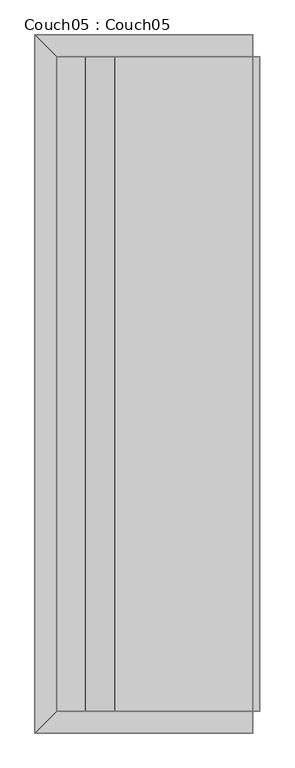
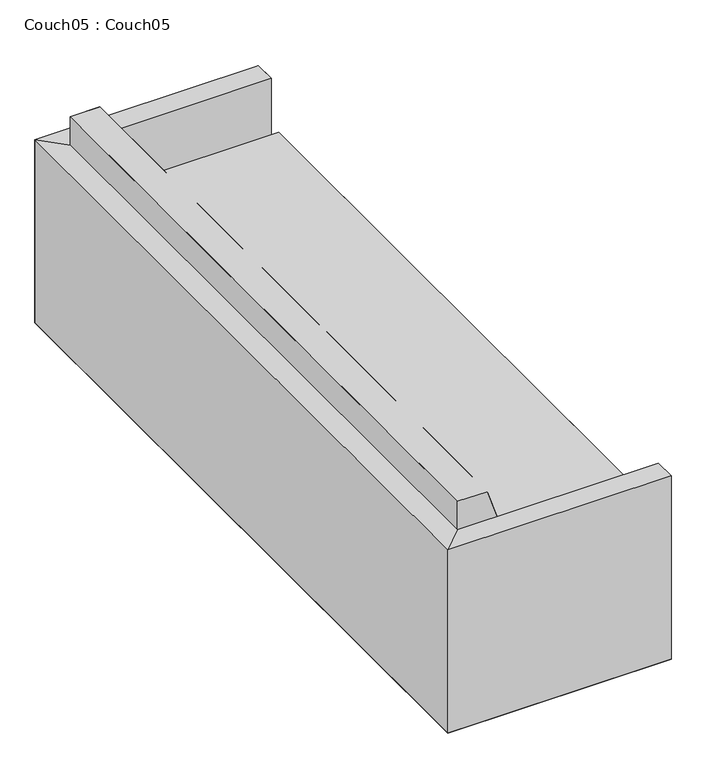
"""IFC4 building model written with IfcOpenShell, lengths in millimetres: furniture geometry, Couch05 : Couch05."""

import ifcopenshell
import ifcopenshell.guid

model = None  # the IFC model being written
_history = None  # IfcOwnerHistory: only IFC2X3 demands one
_inside = {}  # id of a spatial element -> (the spatial element, [elements in it])
_under = {}  # id of a project, library or spatial element -> (it, [spatial elements below it])
_declared = {}  # id of a project -> (the project, [libraries it declares])
_typed = {}  # id of a type object -> (the type object, [elements of that type])
_made_of = {}  # id of a material, layer set ... -> (it, [elements and type objects made of it])


def new_model(schema):
    """Start an empty IFC model of exactly this schema.

    Asked for "IFC4X3", IfcOpenShell would pick the latest addendum, in which some entities
    have other attributes; the version numbers below select the first issue.
    IFC2X3 requires an IfcOwnerHistory on every rooted entity: one is made here for all.
    """
    global model, _history
    if schema == "IFC4X3":
        model = ifcopenshell.file(schema_version=(4, 3, 0, 0))
    else:
        model = ifcopenshell.file(schema=schema)
    _inside.clear()
    _under.clear()
    _declared.clear()
    _typed.clear()
    _made_of.clear()
    _history = None
    if model.schema == "IFC2X3":
        org = make("IfcOrganization", Name="unknown")
        user = make(
            "IfcPersonAndOrganization",
            ThePerson=make("IfcPerson", FamilyName="unknown"),
            TheOrganization=org,
        )
        app = make(
            "IfcApplication",
            ApplicationDeveloper=org,
            Version="unknown",
            ApplicationFullName="unknown",
            ApplicationIdentifier="unknown",
        )
        _history = make(
            "IfcOwnerHistory",
            OwningUser=user,
            OwningApplication=app,
            ChangeAction="ADDED",
            CreationDate=0,
        )
    return model


def make(cls, **values):
    """One entity of the class cls with the attributes given. An attribute that is None is left unset."""
    return model.create_entity(
        cls, **{name: value for name, value in values.items() if value is not None}
    )


def rooted(cls, **values):
    """An entity with a GlobalId (a new one), such as an element, a storey or a relation."""
    return make(cls, GlobalId=ifcopenshell.guid.new(), OwnerHistory=_history, **values)


def si_unit(unit_type, name, prefix=None):
    """IfcSIUnit, for example si_unit("LENGTHUNIT", "METRE", prefix="MILLI")."""
    return make("IfcSIUnit", UnitType=unit_type, Prefix=prefix, Name=name)


def assignment(units):
    """IfcUnitAssignment: the units of a project."""
    return None if units is None else make("IfcUnitAssignment", Units=units)


def point(xyz):
    """IfcCartesianPoint."""
    return None if xyz is None else make("IfcCartesianPoint", Coordinates=xyz)


def direction(xyz):
    """IfcDirection."""
    return None if xyz is None else make("IfcDirection", DirectionRatios=xyz)


def frame(location, z_axis=None, x_axis=None):
    """IfcAxis2Placement3D, a coordinate frame: its origin and axes. An axis left out is left unset."""
    return make(
        "IfcAxis2Placement3D",
        Location=point(location),
        Axis=direction(z_axis),
        RefDirection=direction(x_axis),
    )


def origin():
    """The frame at (0, 0, 0) with its axes left unset."""
    return frame((0.0, 0.0, 0.0))


def place(relative_to, where):
    """IfcLocalPlacement: puts the frame where relative to a parent placement (None: the world)."""
    return make(
        "IfcLocalPlacement", PlacementRelTo=relative_to, RelativePlacement=where
    )


def context(
    kind, dimensions, precision=None, world=None, true_north=None, identifier=None
):
    """IfcGeometricRepresentationContext, for example the 3D "Model" context."""
    return make(
        "IfcGeometricRepresentationContext",
        ContextIdentifier=identifier,
        ContextType=kind,
        CoordinateSpaceDimension=dimensions,
        Precision=precision,
        WorldCoordinateSystem=world,
        TrueNorth=true_north,
    )


def project(units=None, contexts=None):
    """IfcProject with its units and contexts."""
    return rooted(
        "IfcProject",
        Name="project",
        RepresentationContexts=contexts,
        UnitsInContext=assignment(units),
    )


def spatial(cls, under=None, at=None, **own):
    """A site, building, storey or space (cls), placed at a placement, below another one or the project."""
    s = rooted(cls, ObjectPlacement=at, **own)
    if under is not None:
        _under.setdefault(under.id(), (under, []))[1].append(s)
    return s


def point_list(points):
    """IfcCartesianPointList2D or 3D."""
    cls = (
        "IfcCartesianPointList2D" if len(points[0]) == 2 else "IfcCartesianPointList3D"
    )
    return make(cls, CoordList=points)


def triangles(points, corners, closed=None, point_numbers=None):
    """IfcTriangulatedFaceSet: each triangle names its three corners, points numbered from 1."""
    return make(
        "IfcTriangulatedFaceSet",
        Coordinates=point_list(points),
        Closed=closed,
        CoordIndex=corners,
        PnIndex=point_numbers,
    )


def shape(context_of_items, identifier, shape_type, items):
    """IfcShapeRepresentation: the items that make up one representation, for example the "Body"."""
    return make(
        "IfcShapeRepresentation",
        ContextOfItems=context_of_items,
        RepresentationIdentifier=identifier,
        RepresentationType=shape_type,
        Items=items,
    )


def source(mapping_origin, context_of_items, identifier, shape_type, items):
    """IfcRepresentationMap: a shape defined once, which mapped items show again and again."""
    return make(
        "IfcRepresentationMap",
        MappingOrigin=mapping_origin,
        MappedRepresentation=shape(context_of_items, identifier, shape_type, items),
    )


def transform(
    local_origin,
    x_axis=None,
    y_axis=None,
    z_axis=None,
    scale=None,
    scale2=None,
    scale3=None,
    uniform=True,
):
    """IfcCartesianTransformationOperator3D, or its non-uniform kind. x_axis, y_axis, z_axis: its Axis1, 2, 3."""
    if uniform:
        return make(
            "IfcCartesianTransformationOperator3D",
            Axis1=direction(x_axis),
            Axis2=direction(y_axis),
            LocalOrigin=point(local_origin),
            Scale=scale,
            Axis3=direction(z_axis),
        )
    return make(
        "IfcCartesianTransformationOperator3DnonUniform",
        Axis1=direction(x_axis),
        Axis2=direction(y_axis),
        LocalOrigin=point(local_origin),
        Scale=scale,
        Axis3=direction(z_axis),
        Scale2=scale2,
        Scale3=scale3,
    )


def mapped(mapping_source, mapping_target):
    """IfcMappedItem: shows the shape of a source again, moved by a transform."""
    return make(
        "IfcMappedItem", MappingSource=mapping_source, MappingTarget=mapping_target
    )


def made_of(thing, what):
    """Note that an element or type object is made of a material, layer set ...; save() writes the relation."""
    if what is not None:
        _made_of.setdefault(what.id(), (what, []))[1].append(thing)
    return thing


def element(
    cls,
    number,
    at=None,
    inside=None,
    cuts=None,
    type_object=None,
    material=None,
    context=None,
    identifier="Body",
    shape_type=None,
    held_by="IfcProductDefinitionShape",
    body=None,
    shapes=None,
    **own,
):
    """One element of the class cls, such as IfcWall. Its Tag is "e" and its number.

    at: its placement. inside: the storey or other place that contains it. cuts: it is an
    opening in that element (IfcRelVoidsElement). A single representation is given by context,
    identifier, shape_type and body (its items); several are given by shapes. held_by: the class
    of the entity that holds the representations. save() writes the other relations.
    """
    e = rooted(cls, Tag="e%d" % number, ObjectPlacement=at, **own)
    if body is not None:
        shapes = [shape(context, identifier, shape_type, body)]
    if shapes is not None:
        e.Representation = make(held_by, Representations=shapes)
    if inside is not None:
        _inside.setdefault(inside.id(), (inside, []))[1].append(e)
    if cuts is not None:
        rooted(
            "IfcRelVoidsElement", RelatingBuildingElement=cuts, RelatedOpeningElement=e
        )
    if type_object is not None:
        _typed.setdefault(type_object.id(), (type_object, []))[1].append(e)
    return made_of(e, material)


def aggregate(whole, parts):
    """IfcRelAggregates: a whole, such as a stair, and the parts it consists of."""
    return rooted("IfcRelAggregates", RelatingObject=whole, RelatedObjects=parts)


def save(model, path):
    """Write the relations noted so far, then the file.

    IfcRelAggregates (storeys below a building ...), IfcRelContainedInSpatialStructure (elements
    in a storey), IfcRelDefinesByType, IfcRelAssociatesMaterial and IfcRelDeclares: one each for
    every whole, place, type object, material and project.
    """
    for whole, parts in _under.values():
        aggregate(whole, parts)
    for where, things in _inside.values():
        rooted(
            "IfcRelContainedInSpatialStructure",
            RelatedElements=things,
            RelatingStructure=where,
        )
    for kind, things in _typed.values():
        rooted("IfcRelDefinesByType", RelatedObjects=things, RelatingType=kind)
    for what, things in _made_of.values():
        rooted("IfcRelAssociatesMaterial", RelatedObjects=things, RelatingMaterial=what)
    for by, libraries in _declared.values():
        rooted("IfcRelDeclares", RelatingContext=by, RelatedDefinitions=libraries)
    model.write(path)


def couch05_couch05_e9f14d2e(model_context):
    return source(origin(), model_context, "Body", "Tessellation", [
        triangles([(0.0, -1219.2, 660.4000969), (76.2, -1143.0, 660.4000969), (0.0, 1219.2, 660.3998789), (76.2, 1143.0, 660.3998789), (76.2, -380.9999637, 762.0000727), (76.2, -1143.0, 762.0000727), (177.7999939, -380.9999637, 762.0000727), (177.7999939, -1143.0, 762.0000727), (279.4000061, -381.0, 457.2000363), (279.4000061, -1143.0, 457.200109), (787.3999758, -381.0, 457.2000363), (787.3999758, -1143.0, 457.200109), (279.4000061, 381.0, 457.1999637), (787.3999758, 381.0, 457.1999637), (76.2, 381.0000363, 761.9999273), (177.7999939, 381.0000363, 761.9999273), (279.4000061, 1143.0, 457.199891), (787.3999758, 1143.0, 457.199891), (76.2, 1143.0, 761.9999273), (177.7999939, 1143.0, 761.9999273), (0.0, -1219.2, 0.0001066), (76.2, -1143.0, 9.99e-05), (0.0, 1219.2, -0.0001066), (76.2, 1143.0, -9.99e-05)], [[1, 2, 3], [4, 3, 2], [5, 6, 7], [8, 7, 6], [9, 10, 11], [12, 11, 10], [13, 9, 14], [11, 14, 9], [15, 5, 16], [7, 16, 5], [17, 13, 18], [14, 18, 13], [19, 15, 20], [16, 20, 15], [21, 22, 23], [24, 23, 22]], closed=False),
        triangles([(0.0, 1219.2, 660.4000242), (76.2, 1143.0, 660.4000242), (762.0, 1219.2, 660.4000242), (762.0, 1143.0, 660.4000242), (0.0, 1219.2, -3.3e-06), (76.2, 1143.0, 3.3e-06), (762.0, 1219.2, -3.3e-06), (762.0, 1143.0, 3.3e-06)], [[1, 2, 3], [4, 3, 2], [5, 6, 7], [8, 7, 6]], closed=False),
        triangles([(0.0, -1219.2, 660.4000242), (762.0, -1219.2, 660.4000242), (76.2, -1143.0, 660.4000242), (762.0, -1143.0, 660.4000242), (0.0, -1219.2, 3.3e-06), (762.0, -1219.2, 3.3e-06), (76.2, -1143.0, -3.3e-06), (762.0, -1143.0, -3.3e-06)], [[1, 2, 3], [4, 3, 2], [5, 6, 7], [8, 7, 6]], closed=False),
        triangles([(177.7999939, -380.9999637, 762.0000727), (177.7999939, -1143.0, 762.0000727), (279.4000061, -381.0, 457.2000363), (279.4000061, -1143.0, 457.200109), (177.7999939, 381.0000363, 761.9999273), (279.4000061, 381.0, 457.1999637), (177.7999939, 1143.0, 761.9999273), (279.4000061, 1143.0, 457.199891), (762.0, -1143.0, 9.99e-05), (762.0, -1143.0, 660.4000969), (762.0, -1219.2, 660.4000969), (762.0, -1219.2, 0.0001066), (0.0, -1219.2, 660.4000969), (0.0, -1219.2, 0.0001066), (0.0, 1219.2, 660.3998789), (0.0, 1219.2, -0.0001066), (762.0, 1219.2, -0.0001066), (762.0, 1219.2, 660.3998789), (762.0, 1143.0, 660.3998789), (762.0, 1143.0, -9.99e-05), (787.3999758, -381.0, 457.2000363), (787.3999758, -1143.0, 457.200109), (787.3999758, -381.0, 355.6000242), (787.3999758, -1143.0, 355.6000969), (787.3999758, 381.0, 457.1999637), (787.3999758, 381.0, 355.5999879), (787.3999758, 1143.0, 457.199891), (787.3999758, 1143.0, 355.5999152), (762.0, 1143.0, 355.5999152), (762.0, -1143.0, 355.6000969), (76.2, 1143.0, 761.9999273), (76.2, -1143.0, 762.0000727), (76.2, 1143.0, 660.3998789), (76.2, -1143.0, 660.4000969)], [[1, 2, 3], [4, 3, 2], [5, 1, 6], [3, 6, 1], [7, 5, 8], [6, 8, 5], [9, 10, 11], [11, 12, 9], [13, 14, 15], [16, 15, 14], [17, 18, 19], [19, 20, 17], [21, 22, 23], [24, 23, 22], [21, 23, 25], [26, 25, 23], [25, 26, 27], [28, 27, 26], [29, 30, 20], [9, 20, 30], [31, 32, 33], [34, 33, 32]], closed=False),
        triangles([(76.2, -1143.0, 9.99e-05), (76.2, -1143.0, 660.4000969), (762.0, -1143.0, 9.99e-05), (762.0, -1143.0, 660.4000969), (762.0, -1219.2, 660.4000969), (762.0, -1219.2, 0.0001066), (0.0, -1219.2, 660.4000969), (0.0, -1219.2, 0.0001066), (0.0, 1219.2, -0.0001066), (0.0, 1219.2, 660.3998789), (762.0, 1219.2, -0.0001066), (762.0, 1219.2, 660.3998789), (762.0, 1143.0, 660.3998789), (762.0, 1143.0, -9.99e-05), (76.2, 1143.0, -9.99e-05), (76.2, 1143.0, 660.3998789), (762.0, 1143.0, 457.199891), (787.3999758, 1143.0, 457.199891), (762.0, 1143.0, 355.5999152), (787.3999758, 1143.0, 355.5999152), (177.7999939, 1143.0, 761.9999273), (279.4000061, 1143.0, 457.199891), (76.2, 1143.0, 761.9999273), (76.2, 1143.0, 457.199891), (177.7999939, -1143.0, 762.0000727), (279.4000061, -1143.0, 457.200109), (76.2, -1143.0, 762.0000727), (76.2, -1143.0, 457.200109), (762.0, -1143.0, 457.200109), (787.3999758, -1143.0, 457.200109), (762.0, -1143.0, 355.6000969), (787.3999758, -1143.0, 355.6000969)], [[1, 2, 3], [4, 3, 2], [5, 6, 7], [8, 7, 6], [9, 10, 11], [12, 11, 10], [13, 14, 15], [15, 16, 13], [17, 18, 19], [20, 19, 18], [21, 22, 23], [24, 23, 22], [25, 26, 27], [28, 27, 26], [29, 30, 31], [32, 31, 30]], closed=False),
    ])


if __name__ == "__main__":
    model = new_model("IFC4")
    model_context = context("Model", 3, world=origin())
    ifc_project = project(units=[si_unit("LENGTHUNIT", "METRE", prefix="MILLI")], contexts=[model_context])
    site = spatial("IfcSite", under=ifc_project)
    building = spatial("IfcBuilding", under=site)
    placement = place(None, origin())
    couch05_couch05_shape = couch05_couch05_e9f14d2e(model_context)
    element("IfcFurniture", 1, ObjectType="Couch05 : Couch05", at=placement, inside=building, context=model_context, shape_type="MappedRepresentation", body=[
        mapped(couch05_couch05_shape, transform((0.0, 0.0, 0.0), x_axis=(1.0, 0.0, 0.0), y_axis=(0.0, 1.0, 0.0), z_axis=(0.0, 0.0, 1.0))),
    ])
    save(model, "model.ifc")
